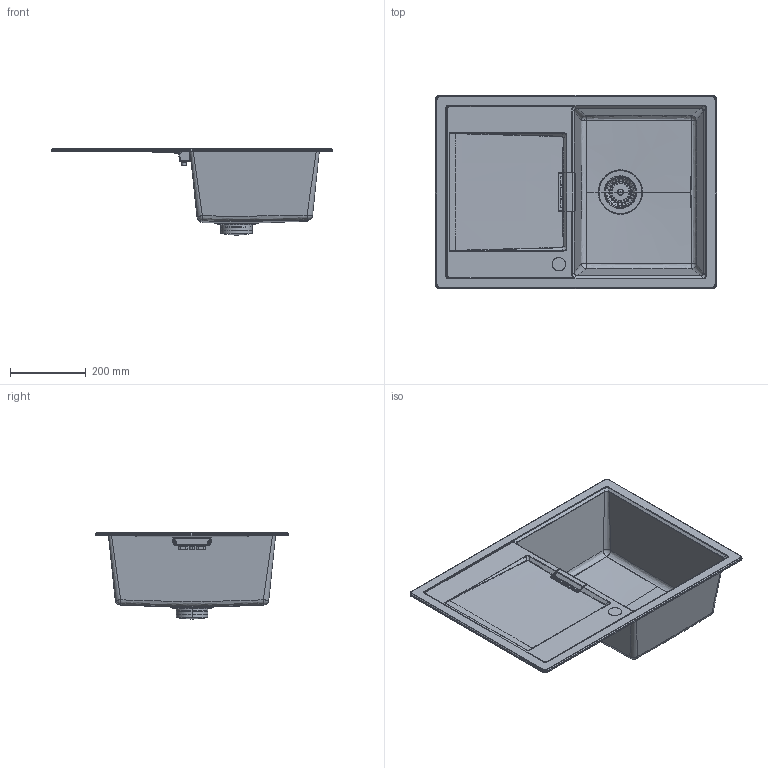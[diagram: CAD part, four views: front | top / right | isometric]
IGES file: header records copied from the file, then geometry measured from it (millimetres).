
Global section: file name: /Volumes/__KUNDEN/____01_SCHOCK/____projekte_schock/__RENDERINGS/__SPUELEN/02_3D Daten/02_PERSPEKTIVEN/Rhino/_SPU; native system: Rhinoceros ( Aug 27 2014 ); preprocessor: Trout Lake IGES 012 Aug 27 2014; date: 141104.091416; units: millimetre
Bounding box: 740 x 510 x 227.64 mm (x, y, z)
Surface area: 678235.1 mm2 (no closed solid volume)
Topology: 0 solids, 0 shells, 501 faces, 43846 edges, 43828 vertices
Faces by surface type: bspline 501
